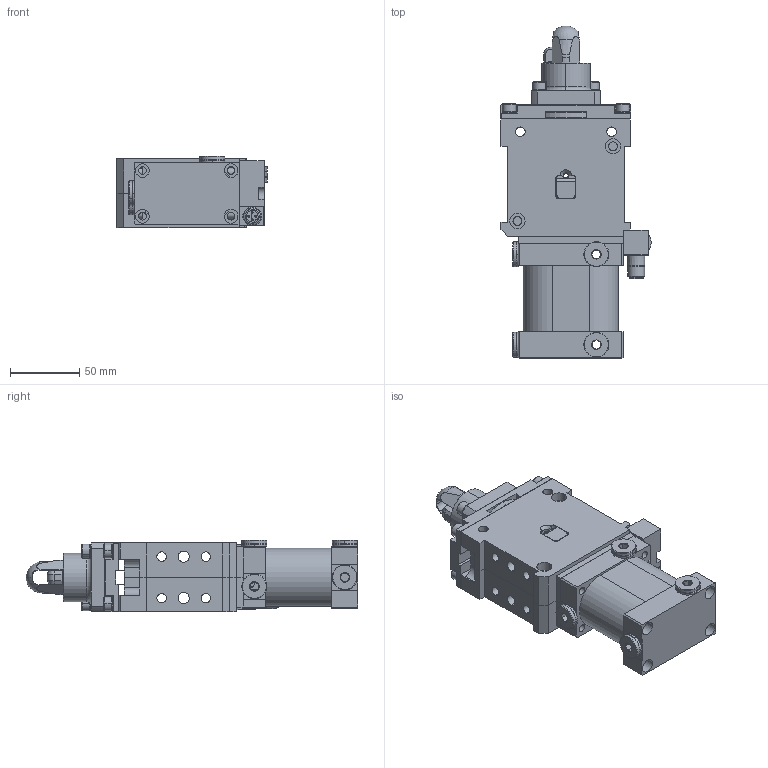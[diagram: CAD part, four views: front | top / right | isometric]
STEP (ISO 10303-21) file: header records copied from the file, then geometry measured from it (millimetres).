
FILE_DESCRIPTION (( 'STEP AP203' ), '1' );
FILE_NAME ('dca50ri_V0430std.STEP', '2019-04-30T13:25:28', ( '' ), ( '' ), 'SwSTEP 2.0', 'SolidWorks 2018', '' );
FILE_SCHEMA (( 'CONFIG_CONTROL_DESIGN' ));
Length unit declared in the file: millimetre
Products named in the file (1): dca50ri_V0430std
Bounding box: 108.59 x 239.9 x 52 mm (x, y, z)
Surface area: 104324.2 mm2 (no closed solid volume)
Topology: 0 solids, 42 shells, 662 faces, 2039 edges, 1371 vertices
Faces by surface type: plane 321, cylinder 188, cone 113, torus 34, bspline 6
Entity records: 24409 total; most frequent: CARTESIAN_POINT 6171, DIRECTION 3909, ORIENTED_EDGE 3380, EDGE_CURVE 2027, AXIS2_PLACEMENT_3D 1381, VERTEX_POINT 1371, VECTOR 1147, LINE 1147
